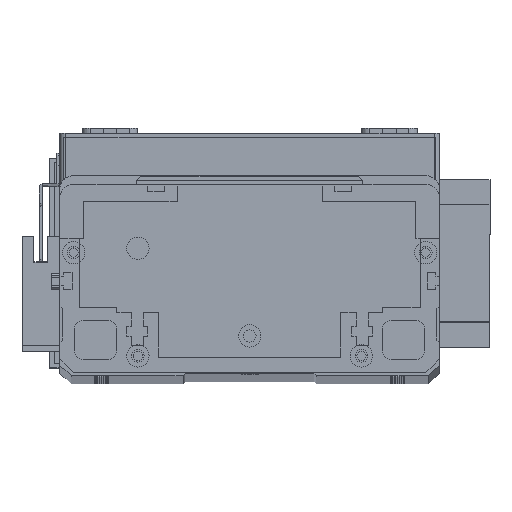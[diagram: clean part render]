
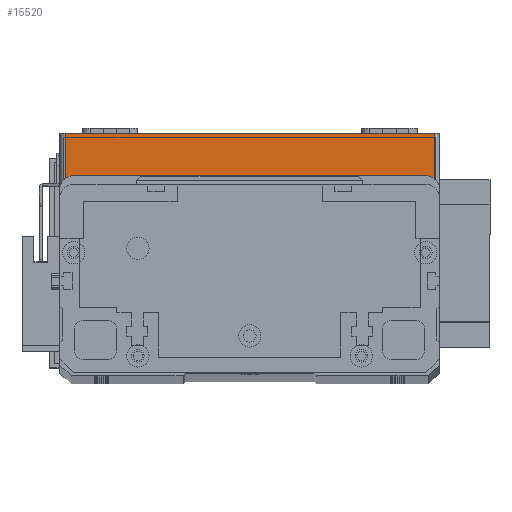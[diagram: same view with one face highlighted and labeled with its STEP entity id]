
A CAD part, top view. The second image highlights one B-rep face of the part: STEP entity #15520.
In plain terms, the highlighted planar face has unit normal (0, 0, 1) as drawn and (0, -1, 0) by its records, which use the part's own axes.
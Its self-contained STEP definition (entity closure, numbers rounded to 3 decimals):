
#1867 = VERTEX_POINT ( 'NONE', #28751 ) ;
#4391 = DIRECTION ( 'NONE',  ( 0., 1., 0. ) ) ;
#4401 = CARTESIAN_POINT ( 'NONE',  ( 0., 0., 0. ) ) ;
#4958 = VECTOR ( 'NONE', #17149, 1000. ) ;
#6205 = FACE_OUTER_BOUND ( 'NONE', #11278, .T. ) ;
#8010 = CARTESIAN_POINT ( 'NONE',  ( 0., 0., 19.5 ) ) ;
#8794 = EDGE_CURVE ( 'NONE', #1867, #28617, #19785, .T. ) ;
#9693 = CARTESIAN_POINT ( 'NONE',  ( 134., 0., 19.5 ) ) ;
#10024 = CARTESIAN_POINT ( 'NONE',  ( 2., 0., 19.5 ) ) ;
#10664 = ORIENTED_EDGE ( 'NONE', *, *, #25196, .F. ) ;
#11023 = VECTOR ( 'NONE', #28154, 1000. ) ;
#11089 = LINE ( 'NONE', #4401, #17197 ) ;
#11278 = EDGE_LOOP ( 'NONE', ( #10664, #17769, #14781, #22116 ) ) ;
#11487 = EDGE_CURVE ( 'NONE', #28617, #21800, #11089, .T. ) ;
#13536 = CARTESIAN_POINT ( 'NONE',  ( 0., 0., 19.5 ) ) ;
#13692 = VECTOR ( 'NONE', #16930, 1000. ) ;
#14421 = CARTESIAN_POINT ( 'NONE',  ( 134., 0., 19.5 ) ) ;
#14781 = ORIENTED_EDGE ( 'NONE', *, *, #11487, .T. ) ;
#15520 = ADVANCED_FACE ( 'NONE', ( #6205 ), #29616, .F. ) ;
#15741 = CARTESIAN_POINT ( 'NONE',  ( 2., 0., 0. ) ) ;
#16930 = DIRECTION ( 'NONE',  ( 0., 0., -1. ) ) ;
#17149 = DIRECTION ( 'NONE',  ( 1., 0., 0. ) ) ;
#17197 = VECTOR ( 'NONE', #18085, 1000. ) ;
#17545 = EDGE_CURVE ( 'NONE', #21800, #29362, #17869, .T. ) ;
#17769 = ORIENTED_EDGE ( 'NONE', *, *, #8794, .T. ) ;
#17869 = LINE ( 'NONE', #14421, #11023 ) ;
#18085 = DIRECTION ( 'NONE',  ( 1., 0., 0. ) ) ;
#19785 = LINE ( 'NONE', #10024, #13692 ) ;
#20473 = DIRECTION ( 'NONE',  ( 0., 0., 1. ) ) ;
#21800 = VERTEX_POINT ( 'NONE', #22090 ) ;
#22090 = CARTESIAN_POINT ( 'NONE',  ( 134., 0., 0. ) ) ;
#22116 = ORIENTED_EDGE ( 'NONE', *, *, #17545, .T. ) ;
#22563 = AXIS2_PLACEMENT_3D ( 'NONE', #13536, #4391, #20473 ) ;
#23281 = LINE ( 'NONE', #8010, #4958 ) ;
#25196 = EDGE_CURVE ( 'NONE', #1867, #29362, #23281, .T. ) ;
#28154 = DIRECTION ( 'NONE',  ( 0., 0., 1. ) ) ;
#28617 = VERTEX_POINT ( 'NONE', #15741 ) ;
#28751 = CARTESIAN_POINT ( 'NONE',  ( 2., 0., 19.5 ) ) ;
#29362 = VERTEX_POINT ( 'NONE', #9693 ) ;
#29616 = PLANE ( 'NONE',  #22563 ) ;
